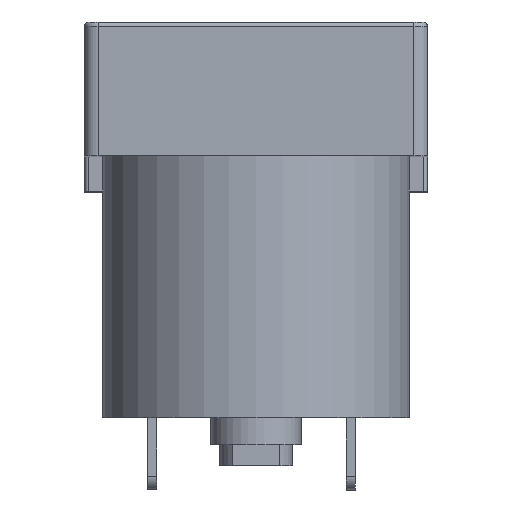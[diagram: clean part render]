
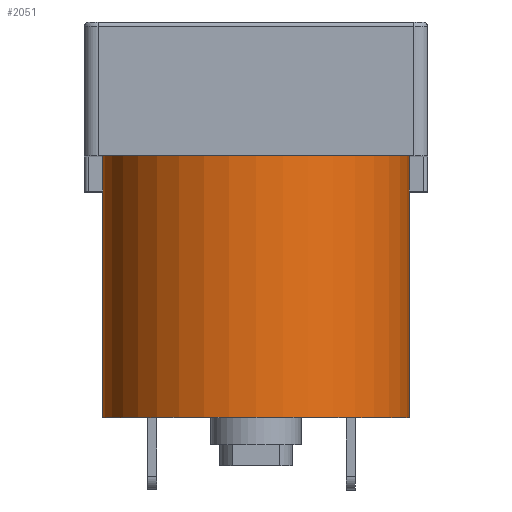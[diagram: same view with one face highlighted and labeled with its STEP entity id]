
A CAD part, top view. The second image highlights one B-rep face of the part: STEP entity #2051.
In plain terms, the highlighted cylindrical face has radius 17 mm (diameter 34 mm), a full revolution.
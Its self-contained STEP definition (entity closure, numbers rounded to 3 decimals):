
#1352=CARTESIAN_POINT('',(22.,0.0,72.5));
#1353=VERTEX_POINT('',#1352);
#1354=CARTESIAN_POINT('',(5.,0.0,72.5));
#1355=DIRECTION('',(0.0,1.0,0.0));
#1356=DIRECTION('',(-1.0,0.0,0.0));
#1357=AXIS2_PLACEMENT_3D('',#1354,#1355,#1356);
#1358=CIRCLE('',#1357,17.0);
#1359=EDGE_CURVE('',#1353,#1353,#1358,.T.);
#2032=CARTESIAN_POINT('',(5.,0.0,72.5));
#2033=DIRECTION('',(0.0,-1.0,0.0));
#2034=DIRECTION('',(-1.0,0.0,0.0));
#2035=AXIS2_PLACEMENT_3D('',#2032,#2033,#2034);
#2036=CYLINDRICAL_SURFACE('',#2035,17.0);
#2037=CARTESIAN_POINT('',(22.,-29.,72.5));
#2038=VERTEX_POINT('',#2037);
#2039=CARTESIAN_POINT('',(5.,-29.,72.5));
#2040=DIRECTION('',(0.0,1.0,0.0));
#2041=DIRECTION('',(-1.0,0.0,0.0));
#2042=AXIS2_PLACEMENT_3D('',#2039,#2040,#2041);
#2043=CIRCLE('',#2042,17.0);
#2044=EDGE_CURVE('',#2038,#2038,#2043,.T.);
#2045=ORIENTED_EDGE('',*,*,#2044,.T.);
#2046=EDGE_LOOP('',(#2045));
#2047=FACE_OUTER_BOUND('',#2046,.T.);
#2048=ORIENTED_EDGE('',*,*,#1359,.F.);
#2049=EDGE_LOOP('',(#2048));
#2050=FACE_BOUND('',#2049,.T.);
#2051=ADVANCED_FACE('',(#2047,#2050),#2036,.T.);
